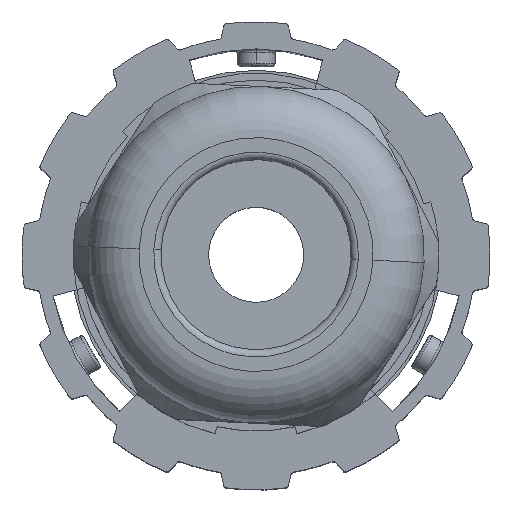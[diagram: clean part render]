
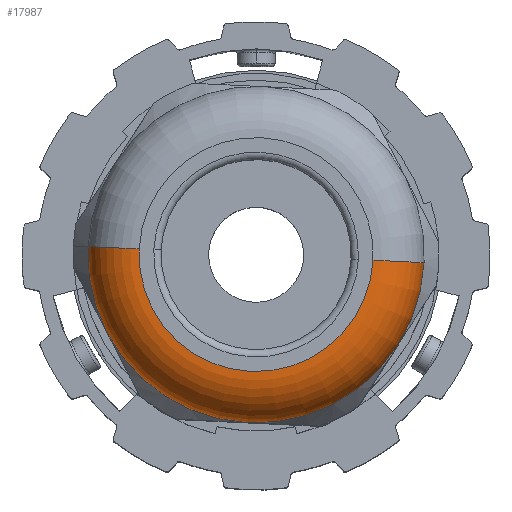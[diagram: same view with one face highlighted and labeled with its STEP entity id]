
A CAD part, top view. The second image highlights one B-rep face of the part: STEP entity #17987.
In plain terms, the highlighted toroidal (fillet/blend) face has major radius 8 mm and minor radius 3.5 mm.
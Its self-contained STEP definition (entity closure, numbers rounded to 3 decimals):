
#1386 = VERTEX_POINT ( 'NONE', #3719 ) ;
#1389 = VERTEX_POINT ( 'NONE', #3722 ) ;
#1390 = VERTEX_POINT ( 'NONE', #3723 ) ;
#1392 = VERTEX_POINT ( 'NONE', #3725 ) ;
#1396 = VERTEX_POINT ( 'NONE', #3729 ) ;
#1403 = VERTEX_POINT ( 'NONE', #3736 ) ;
#1406 = VERTEX_POINT ( 'NONE', #3739 ) ;
#1706 = EDGE_LOOP ( 'NONE', ( #19722, #19723, #19724, #19725, #19726, #19727, #19728 ) ) ;
#3266 = AXIS2_PLACEMENT_3D ( 'NONE', #6388, #6385, #6390 ) ;
#3719 = CARTESIAN_POINT ( 'NONE',  ( 14.7, 0., 11.5 ) ) ;
#3722 = CARTESIAN_POINT ( 'NONE',  ( 18.2, 0., -8. ) ) ;
#3723 = CARTESIAN_POINT ( 'NONE',  ( 18.2, 0., 8. ) ) ;
#3725 = CARTESIAN_POINT ( 'NONE',  ( 14.7, 0., -11.5 ) ) ;
#3729 = CARTESIAN_POINT ( 'NONE',  ( 14.7, -5.75, 9.959 ) ) ;
#3736 = CARTESIAN_POINT ( 'NONE',  ( 14.7, -5.75, -9.959 ) ) ;
#3739 = CARTESIAN_POINT ( 'NONE',  ( 14.7, -11.5, 0. ) ) ;
#5453 = FACE_OUTER_BOUND ( 'NONE', #1706, .T. ) ;
#5457 = TOROIDAL_SURFACE ( 'NONE', #3266, 8., 3.5 ) ;
#6385 = DIRECTION ( 'NONE',  ( -1., 0., 0. ) ) ;
#6388 = CARTESIAN_POINT ( 'NONE',  ( 14.7, 0., 0. ) ) ;
#6390 = DIRECTION ( 'NONE',  ( 0., 0., 1. ) ) ;
#12982 = CIRCLE ( 'NONE', #13678, 3.5 ) ;
#12990 = CIRCLE ( 'NONE', #13683, 3.5 ) ;
#13002 = CIRCLE ( 'NONE', #13687, 11.5 ) ;
#13008 = CIRCLE ( 'NONE', #13690, 11.5 ) ;
#13011 = CIRCLE ( 'NONE', #13692, 11.5 ) ;
#13012 = CIRCLE ( 'NONE', #13693, 11.5 ) ;
#13054 = CIRCLE ( 'NONE', #13706, 8. ) ;
#13678 = AXIS2_PLACEMENT_3D ( 'NONE', #14074, #14075, #14076 ) ;
#13683 = AXIS2_PLACEMENT_3D ( 'NONE', #14090, #14091, #14092 ) ;
#13687 = AXIS2_PLACEMENT_3D ( 'NONE', #14112, #14113, #14114 ) ;
#13690 = AXIS2_PLACEMENT_3D ( 'NONE', #14155, #14156, #14157 ) ;
#13692 = AXIS2_PLACEMENT_3D ( 'NONE', #14182, #14183, #14184 ) ;
#13693 = AXIS2_PLACEMENT_3D ( 'NONE', #14197, #14198, #14199 ) ;
#13706 = AXIS2_PLACEMENT_3D ( 'NONE', #14297, #14298, #14299 ) ;
#14074 = CARTESIAN_POINT ( 'NONE',  ( 14.7, 0., -8. ) ) ;
#14075 = DIRECTION ( 'NONE',  ( 0., 1., 0. ) ) ;
#14076 = DIRECTION ( 'NONE',  ( 0., 0., 1. ) ) ;
#14090 = CARTESIAN_POINT ( 'NONE',  ( 14.7, 0., 8. ) ) ;
#14091 = DIRECTION ( 'NONE',  ( 0., -1., 0. ) ) ;
#14092 = DIRECTION ( 'NONE',  ( 0., 0., -1. ) ) ;
#14112 = CARTESIAN_POINT ( 'NONE',  ( 14.7, 0., 0. ) ) ;
#14113 = DIRECTION ( 'NONE',  ( -1., 0., 0. ) ) ;
#14114 = DIRECTION ( 'NONE',  ( 0., 0., 1. ) ) ;
#14155 = CARTESIAN_POINT ( 'NONE',  ( 14.7, 0., 0. ) ) ;
#14156 = DIRECTION ( 'NONE',  ( -1., 0., 0. ) ) ;
#14157 = DIRECTION ( 'NONE',  ( 0., 0., 1. ) ) ;
#14182 = CARTESIAN_POINT ( 'NONE',  ( 14.7, 0., 0. ) ) ;
#14183 = DIRECTION ( 'NONE',  ( -1., 0., 0. ) ) ;
#14184 = DIRECTION ( 'NONE',  ( 0., 0., 1. ) ) ;
#14197 = CARTESIAN_POINT ( 'NONE',  ( 14.7, 0., 0. ) ) ;
#14198 = DIRECTION ( 'NONE',  ( -1., 0., 0. ) ) ;
#14199 = DIRECTION ( 'NONE',  ( 0., 0., 1. ) ) ;
#14297 = CARTESIAN_POINT ( 'NONE',  ( 18.2, 0., 0. ) ) ;
#14298 = DIRECTION ( 'NONE',  ( -1., 0., 0. ) ) ;
#14299 = DIRECTION ( 'NONE',  ( 0., 0., 1. ) ) ;
#17987 = ADVANCED_FACE ( 'NONE', ( #5453 ), #5457, .T. ) ;
#19561 = EDGE_CURVE ( 'NONE', #1389, #1392, #12982, .T. ) ;
#19566 = EDGE_CURVE ( 'NONE', #1390, #1386, #12990, .T. ) ;
#19574 = EDGE_CURVE ( 'NONE', #1396, #1386, #13002, .T. ) ;
#19582 = EDGE_CURVE ( 'NONE', #1406, #1396, #13008, .T. ) ;
#19586 = EDGE_CURVE ( 'NONE', #1392, #1403, #13011, .T. ) ;
#19588 = EDGE_CURVE ( 'NONE', #1403, #1406, #13012, .T. ) ;
#19722 = ORIENTED_EDGE ( 'NONE', *, *, #19561, .F. ) ;
#19723 = ORIENTED_EDGE ( 'NONE', *, *, #20203, .T. ) ;
#19724 = ORIENTED_EDGE ( 'NONE', *, *, #19566, .T. ) ;
#19725 = ORIENTED_EDGE ( 'NONE', *, *, #19574, .F. ) ;
#19726 = ORIENTED_EDGE ( 'NONE', *, *, #19582, .F. ) ;
#19727 = ORIENTED_EDGE ( 'NONE', *, *, #19588, .F. ) ;
#19728 = ORIENTED_EDGE ( 'NONE', *, *, #19586, .F. ) ;
#20203 = EDGE_CURVE ( 'NONE', #1389, #1390, #13054, .T. ) ;
